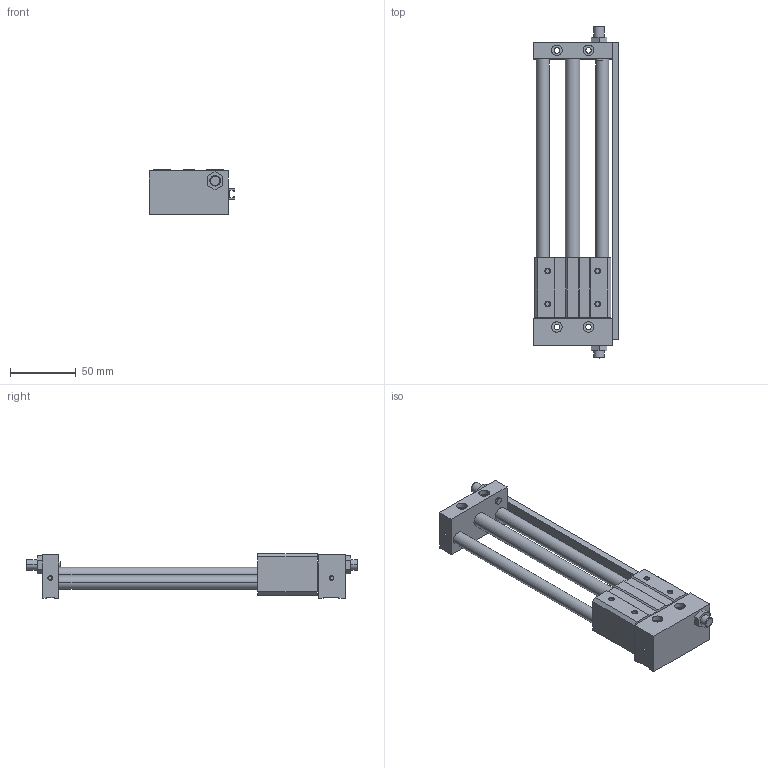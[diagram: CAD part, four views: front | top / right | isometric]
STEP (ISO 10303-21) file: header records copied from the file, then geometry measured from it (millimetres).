
FILE_DESCRIPTION((''),'2;1');
FILE_NAME('C:\Documents and Settings\Administrator\桌面\GYS\GYS10\GYSR10X150.stp','2012-03-05T10:11:10',('Administrator'),(''),'Autodesk Inventor 8','Autodesk Inventor 8','');
FILE_SCHEMA(('AUTOMOTIVE_DESIGN { 1 0 10303 214 1 1 1 1 }'));
Length unit declared in the file: millimetre
Products named in the file (3): GYSR10X150; GYS10X150; GYS10160X150
Assembly tree (2 placements, depth 2):
  GYSR10X150
    GYS10X150
    GYS10160X150
Bounding box: 65 x 252 x 34 mm (x, y, z)
Volume: 185838.2 mm3; surface area: 51535 mm2
Topology: 2 solids, 2 shells, 193 faces, 462 edges, 296 vertices
Faces by surface type: plane 97, cylinder 58, cone 32, bspline 6
Entity records: 5756 total; most frequent: CARTESIAN_POINT 1030, DIRECTION 1006, ORIENTED_EDGE 924, EDGE_CURVE 462, AXIS2_PLACEMENT_3D 352, VECTOR 302, LINE 302, VERTEX_POINT 296
